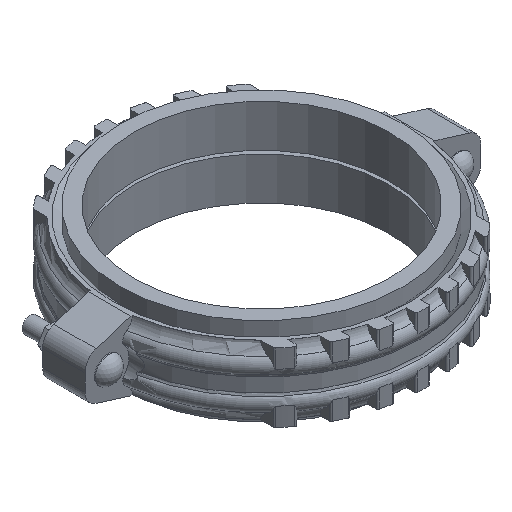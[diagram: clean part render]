
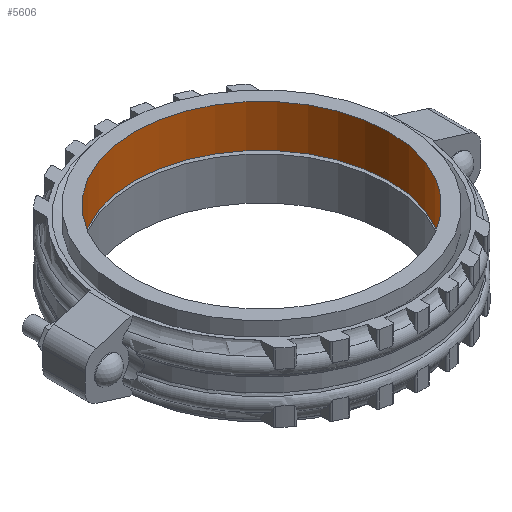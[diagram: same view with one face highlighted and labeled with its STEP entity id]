
A CAD part, isometric view. The second image highlights one B-rep face of the part: STEP entity #5606.
In plain terms, the highlighted cylindrical face has radius 228.6 mm (diameter 457.2 mm), a full revolution.
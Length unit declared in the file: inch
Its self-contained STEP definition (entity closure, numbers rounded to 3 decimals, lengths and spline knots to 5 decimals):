
#418=CYLINDRICAL_SURFACE('',#6243,9.);
#714=FACE_OUTER_BOUND('',#1010,.T.);
#1010=EDGE_LOOP('',(#4938,#4939,#4940,#4941,#4942,#4943));
#1341=LINE('',#11493,#1670);
#1670=VECTOR('',#7704,9.);
#1949=CIRCLE('',#6241,9.);
#1950=CIRCLE('',#6242,9.);
#1951=CIRCLE('',#6244,9.);
#1952=CIRCLE('',#6245,9.);
#2499=VERTEX_POINT('',#11487);
#2500=VERTEX_POINT('',#11488);
#2501=VERTEX_POINT('',#11492);
#2502=VERTEX_POINT('',#11494);
#3313=EDGE_CURVE('',#2499,#2500,#1949,.T.);
#3314=EDGE_CURVE('',#2500,#2499,#1950,.T.);
#3315=EDGE_CURVE('',#2500,#2501,#1341,.T.);
#3316=EDGE_CURVE('',#2502,#2501,#1951,.T.);
#3317=EDGE_CURVE('',#2501,#2502,#1952,.T.);
#4938=ORIENTED_EDGE('',*,*,#3313,.T.);
#4939=ORIENTED_EDGE('',*,*,#3315,.T.);
#4940=ORIENTED_EDGE('',*,*,#3316,.F.);
#4941=ORIENTED_EDGE('',*,*,#3317,.F.);
#4942=ORIENTED_EDGE('',*,*,#3315,.F.);
#4943=ORIENTED_EDGE('',*,*,#3314,.T.);
#5606=ADVANCED_FACE('',(#714),#418,.F.);
#6241=AXIS2_PLACEMENT_3D('',#11489,#7698,#7699);
#6242=AXIS2_PLACEMENT_3D('',#11490,#7700,#7701);
#6243=AXIS2_PLACEMENT_3D('',#11491,#7702,#7703);
#6244=AXIS2_PLACEMENT_3D('',#11495,#7705,#7706);
#6245=AXIS2_PLACEMENT_3D('',#11496,#7707,#7708);
#7698=DIRECTION('center_axis',(0.,0.,-1.));
#7699=DIRECTION('ref_axis',(1.,0.,0.));
#7700=DIRECTION('center_axis',(0.,0.,-1.));
#7701=DIRECTION('ref_axis',(1.,0.,0.));
#7702=DIRECTION('center_axis',(0.,0.,-1.));
#7703=DIRECTION('ref_axis',(0.,1.,0.));
#7704=DIRECTION('',(0.,0.,1.));
#7705=DIRECTION('center_axis',(0.,0.,-1.));
#7706=DIRECTION('ref_axis',(1.,0.,0.));
#7707=DIRECTION('center_axis',(0.,0.,-1.));
#7708=DIRECTION('ref_axis',(1.,0.,0.));
#11487=CARTESIAN_POINT('',(0.,9.,0.));
#11488=CARTESIAN_POINT('',(0.,-9.,0.));
#11489=CARTESIAN_POINT('Origin',(0.,0.,0.));
#11490=CARTESIAN_POINT('Origin',(0.,0.,0.));
#11491=CARTESIAN_POINT('Origin',(0.,0.,1.5));
#11492=CARTESIAN_POINT('',(0.,-9.,3.));
#11493=CARTESIAN_POINT('',(0.,-9.,1.5));
#11494=CARTESIAN_POINT('',(0.,9.,3.));
#11495=CARTESIAN_POINT('Origin',(0.,0.,3.));
#11496=CARTESIAN_POINT('Origin',(0.,0.,3.));
